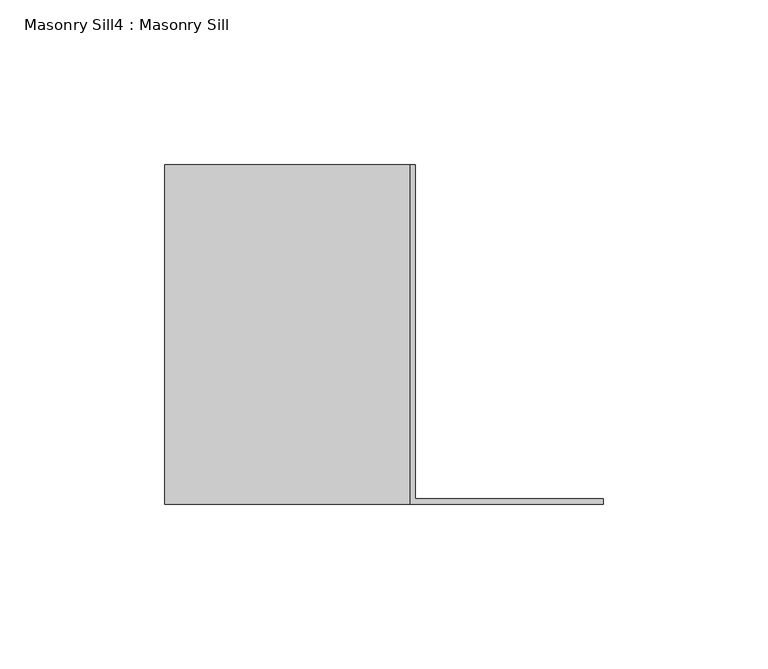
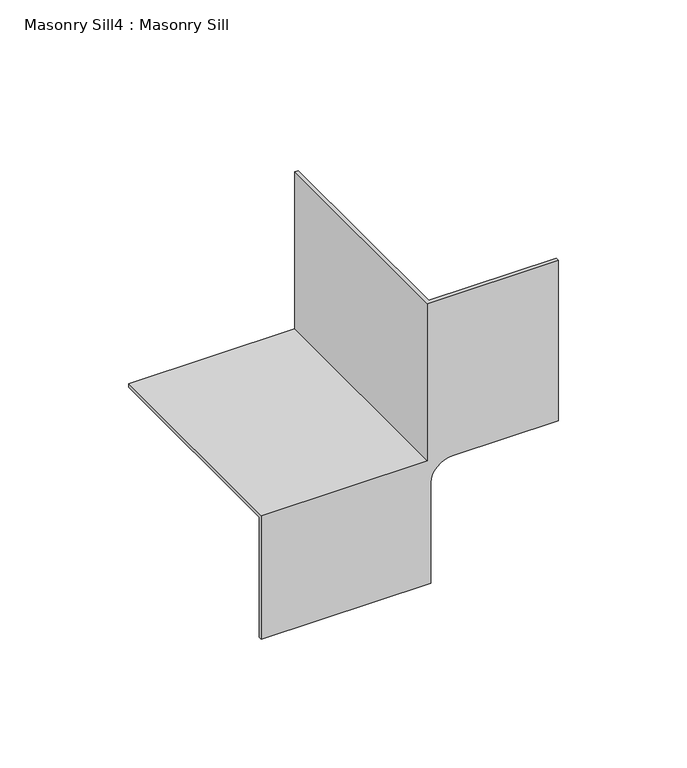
"""IFC4 building model written with IfcOpenShell, lengths in millimetres: proxy geometry, Masonry Sill4 : Masonry Sill."""

from ifc_helpers import new_model, si_unit, frame, origin, place, context, project, spatial, polyline, circle_curve, source, transform, mapped, element, save
from ifc_brep_helpers import plane_surface, revolved_surface, advanced_brep


def masonry_sill4_masonry_sill_f52e6068(model_context):
    return source(origin(), model_context, "Body", "AdvancedBrep", [
        advanced_brep(
        [(26781.2726773, 735.5816297, 558.8), (26781.2726773, 735.5816297, 560.3875), (26855.8851773, 735.5816297, 560.3875), (26855.8851773, 735.5816297, 635.0), (26857.4726773, 735.5816297, 635.0), (26857.4726773, 735.5816297, 558.8), (26857.4726773, 633.9816297, 558.8), (26781.2726773, 633.9816297, 558.8), (26857.4726773, 633.9816297, 635.0), (26855.8851773, 632.3941297, 635.0), (26914.6226773, 632.3941297, 635.0), (26914.6226773, 633.9816297, 635.0), (26855.8851773, 632.3941297, 560.3875), (26781.2726773, 632.3941297, 560.3875), (26781.2726773, 633.9816297, 501.65), (26781.2726773, 632.3941297, 501.65), (26857.4726773, 632.3941297, 501.65), (26857.4726773, 632.3941297, 549.275), (26866.9976773, 632.3941297, 558.8), (26914.6226773, 632.3941297, 558.8), (26914.6226773, 633.9816297, 558.8), (26866.9976773, 633.9816297, 558.8), (26857.4726773, 633.9816297, 549.275), (26857.4726773, 633.9816297, 501.65)],
        [
            (0, 1),
            (1, 2),
            (2, 3),
            (3, 4),
            (4, 5),
            (5, 0),
            (5, 6),
            (6, 7),
            (7, 0),
            (4, 8),
            (8, 6),
            (3, 9),
            (9, 10),
            (10, 11),
            (11, 8),
            (2, 12),
            (12, 9),
            (1, 13),
            (13, 12),
            (7, 14),
            (14, 15),
            (15, 13),
            (15, 16),
            (16, 17),
            (17, 18, circle_curve(frame((26866.9976773, 632.3941297, 549.275), z_axis=(0.0, 1.0, 0.0), x_axis=(1.0, 0.0, 0.0)), 9.525)),
            (18, 19),
            (19, 10),
            (11, 20),
            (20, 21),
            (21, 22, circle_curve(frame((26866.9976773, 633.9816297, 549.275), z_axis=(0.0, -1.0, 0.0), x_axis=(1.0, 0.0, 0.0)), 9.525)),
            (22, 23),
            (23, 14),
            (19, 20),
            (18, 21),
            (17, 22),
            (16, 23),
        ],
        [
            plane_surface(frame((26857.4726773, 735.5816297, 558.8), z_axis=(0.0, 1.0, 0.0), x_axis=(1.0, 0.0, 0.0))),
            plane_surface(frame((26857.4726773, 735.5816297, 558.8), z_axis=(0.0, 0.0, -1.0), x_axis=(0.0, -1.0, 0.0))),
            plane_surface(frame((26857.4726773, 735.5816297, 635.0), z_axis=(1.0, 0.0, 0.0), x_axis=(0.0, -1.0, 0.0))),
            plane_surface(frame((26855.8851773, 735.5816297, 635.0), z_axis=(0.0, 0.0, 1.0), x_axis=(0.0, -1.0, 0.0))),
            plane_surface(frame((26855.8851773, 735.5816297, 560.3875), z_axis=(-1.0, 0.0, 0.0), x_axis=(0.0, -1.0, 0.0))),
            plane_surface(frame((26781.2726773, 735.5816297, 560.3875), z_axis=(0.0, 0.0, 1.0), x_axis=(0.0, -1.0, 0.0))),
            plane_surface(frame((26781.2726773, 735.5816297, 558.8), z_axis=(-1.0, 0.0, 0.0), x_axis=(0.0, -1.0, 0.0))),
            plane_surface(frame((26781.2726773, 632.3941297, 501.65), z_axis=(0.0, -1.0, 0.0), x_axis=(1.0, 0.0, 0.0))),
            plane_surface(frame((26781.2726773, 633.9816297, 501.65), z_axis=(0.0, 1.0, 0.0), x_axis=(-1.0, 0.0, 0.0))),
            plane_surface(frame((26914.6226773, 632.3941297, 558.8), z_axis=(1.0, 0.0, 0.0), x_axis=(0.0, 1.0, 0.0))),
            plane_surface(frame((26866.9976773, 632.3941297, 558.8), z_axis=(0.0, 0.0, -1.0), x_axis=(0.0, 1.0, 0.0))),
            revolved_surface(polyline([(26876.522677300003, 633.9816297, 549.275), (26876.522677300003, 632.3941297, 549.275)]), (26866.9976773, 633.9816297, 549.275), (0.0, 1.0, 0.0)),
            plane_surface(frame((26857.4726773, 632.3941297, 501.65), z_axis=(1.0, 0.0, 0.0), x_axis=(0.0, 1.0, 0.0))),
            plane_surface(frame((26781.2726773, 632.3941297, 501.65), z_axis=(0.0, 0.0, -1.0), x_axis=(0.0, 1.0, 0.0))),
        ],
        [
            (0, [[1, 2, 3, 4, 5, 6]]),
            (1, [[-6, 7, 8, 9]]),
            (2, [[-5, 10, 11, -7]]),
            (3, [[-4, 12, 13, 14, 15, -10]]),
            (4, [[-12, -3, 16, 17]]),
            (5, [[-16, -2, 18, 19]]),
            (6, [[-18, -1, -9, 20, 21, 22]]),
            (7, [[23, 24, 25, 26, 27, -13, -17, -19, -22]]),
            (8, [[28, 29, 30, 31, 32, -20, -8, -11, -15]]),
            (9, [[-27, 33, -28, -14]]),
            (10, [[-26, 34, -29, -33]]),
            (11, [[-25, 35, -30, -34]]),
            (12, [[-24, 36, -31, -35]]),
            (13, [[-23, -21, -32, -36]]),
        ],
    ),
    ])


if __name__ == "__main__":
    model = new_model("IFC4")
    model_context = context("Model", 3, world=origin())
    ifc_project = project(units=[si_unit("LENGTHUNIT", "METRE", prefix="MILLI")], contexts=[model_context])
    site = spatial("IfcSite", under=ifc_project)
    building = spatial("IfcBuilding", under=site)
    placement = place(None, origin())
    masonry_sill4_masonry_sill_shape = masonry_sill4_masonry_sill_f52e6068(model_context)
    element("IfcBuildingElementProxy", 1, Name="Masonry Sill4 : Masonry Sill", ObjectType="Masonry Sill4 : Masonry Sill", at=placement, inside=building, context=model_context, shape_type="MappedRepresentation", body=[
        mapped(masonry_sill4_masonry_sill_shape, transform((0.0, 0.0, 0.0), x_axis=(1.0, 0.0, 0.0), y_axis=(0.0, 1.0, 0.0), z_axis=(0.0, 0.0, 1.0))),
    ])
    save(model, "model.ifc")
